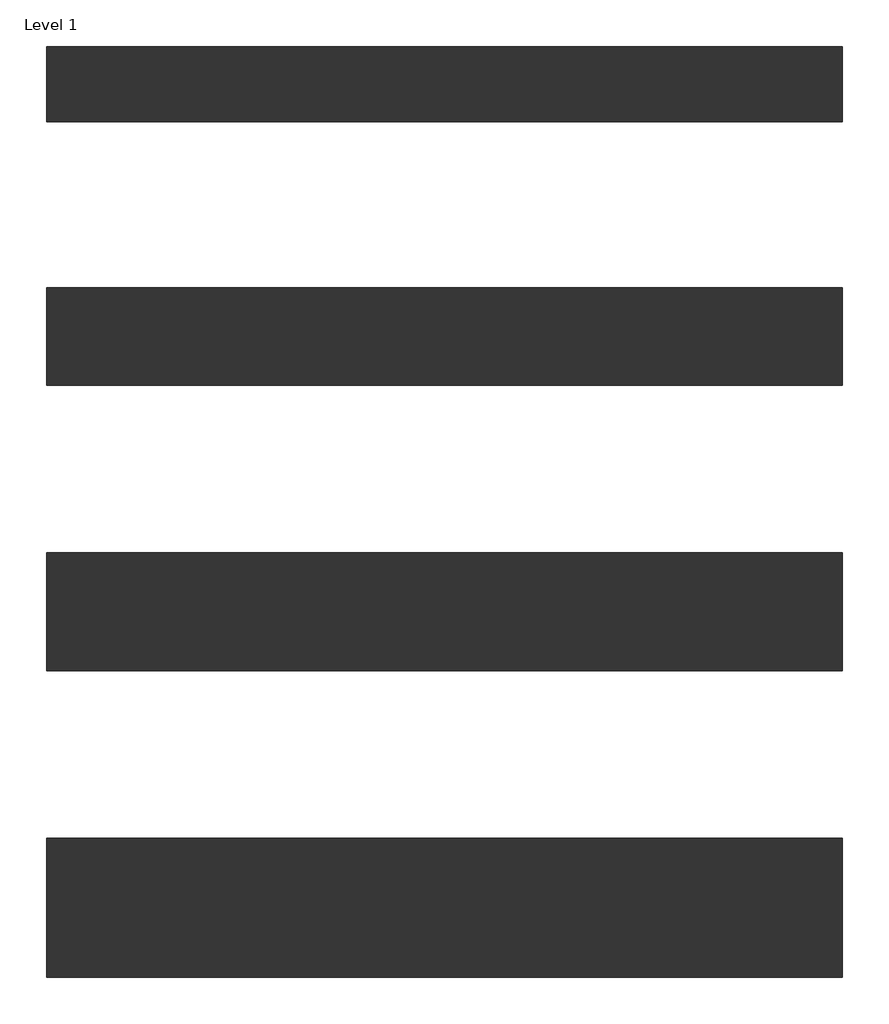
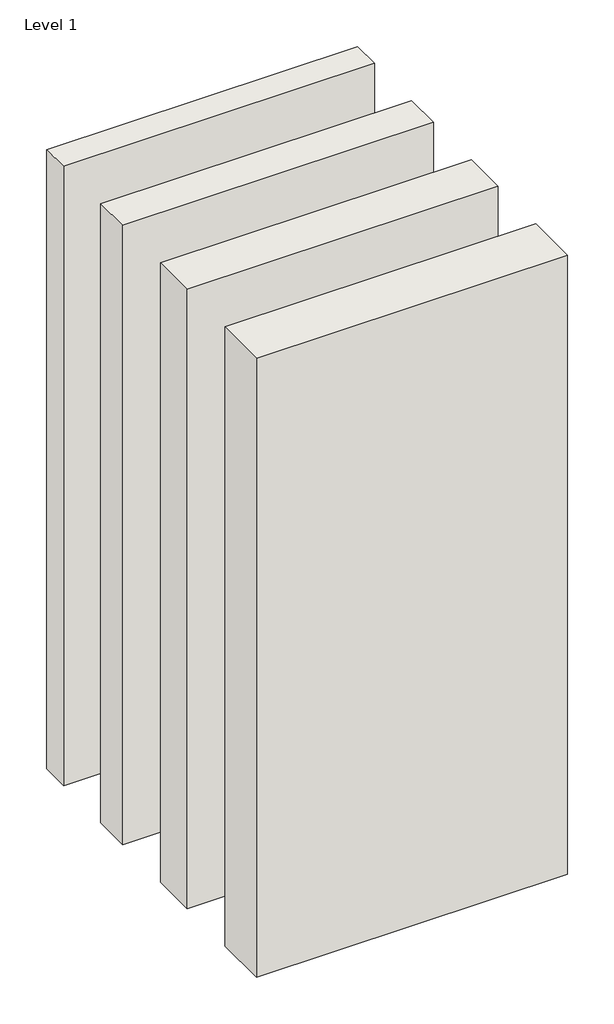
# One storey: 4 walls.
"""IFC4 building model written with IfcOpenShell, lengths in millimetres."""

from ifc_helpers import new_model, si_unit, origin, origin_with_axes, place, context, project, spatial, polyline, outline, extrude, element, save

model = new_model("IFC4")

# Units and contexts
model_context = context("Model", 3, world=origin())
ifc_project = project(units=[si_unit("LENGTHUNIT", "METRE", prefix="MILLI")], contexts=[model_context])

# Site, building, storey
site = spatial("IfcSite", under=ifc_project)
building = spatial("IfcBuilding", under=site)
storey = spatial("IfcBuildingStorey", under=building, Name="Level 1", Elevation=0.0)

# Walls
placement = place(None, origin())
element("IfcWall", 1, ObjectType="Interior-Steel Frame-Double Stud-CSR1340-180mm", at=placement, inside=storey, context=model_context, shape_type="SweptSolid", body=[
    extrude(outline(polyline([(-735.1707955, -303.4806986), (1164.8292045, -303.4806986), (1164.8292045, -483.4806986), (-735.1707955, -483.4806986), (-735.1707955, -303.4806986)])), origin_with_axes(), (0.0, 0.0, 1.0), 4000.0),
])
element("IfcWall", 2, ObjectType="Interior-Steel Frame-Double Stud-CSR1340-232mm", at=placement, inside=storey, context=model_context, shape_type="SweptSolid", body=[
    extrude(outline(polyline([(-735.1707955, -879.3985068), (1164.8292045, -879.3985068), (1164.8292045, -1111.3985068), (-735.1707955, -1111.3985068), (-735.1707955, -879.3985068)])), origin_with_axes(), (0.0, 0.0, 1.0), 4000.0),
])
element("IfcWall", 3, ObjectType="Interior-Steel Frame-Double Stud-CSR1340-282mm", at=placement, inside=storey, context=model_context, shape_type="SweptSolid", body=[
    extrude(outline(polyline([(-735.1707955, -1511.3985068), (1164.8292045, -1511.3985068), (1164.8292045, -1793.3985068), (-735.1707955, -1793.3985068), (-735.1707955, -1511.3985068)])), origin_with_axes(), (0.0, 0.0, 1.0), 4000.0),
])
element("IfcWall", 4, ObjectType="Interior-Steel Frame-Double Stud-CSR1340-332mm", at=placement, inside=storey, context=model_context, shape_type="SweptSolid", body=[
    extrude(outline(polyline([(-735.1707955, -2193.3985068), (1164.8292045, -2193.3985068), (1164.8292045, -2525.3985068), (-735.1707955, -2525.3985068), (-735.1707955, -2193.3985068)])), origin_with_axes(), (0.0, 0.0, 1.0), 4000.0),
])

save(model, "model.ifc")
